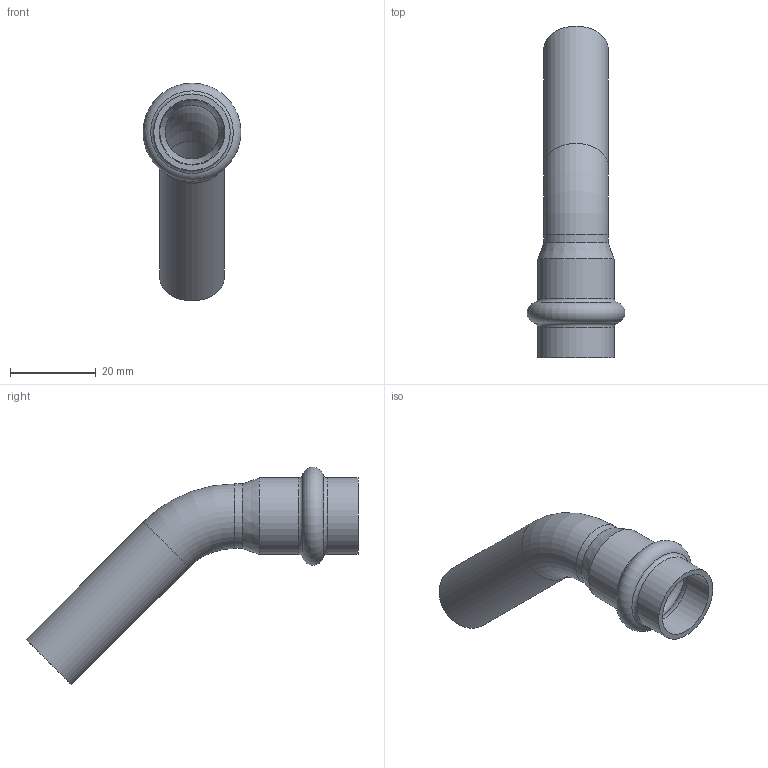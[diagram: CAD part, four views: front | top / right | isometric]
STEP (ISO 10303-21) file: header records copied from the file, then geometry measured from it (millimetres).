
FILE_DESCRIPTION(('STEP AP203'), '1');
FILE_NAME('覆.302661.009.000 捘 - VTi.958.I.001515', '', ('UNSPECIFIED'), ('UNSPECIFIED'), 'C3D Converter', 'C3D Toolkit', '');
FILE_SCHEMA(('CONFIG_CONTROL_DESIGN'));
Length unit declared in the file: millimetre
Products named in the file (1): ВР.302661.009.000 СБ
Bounding box: 22.8 x 77.24 x 50.64 mm (x, y, z)
Volume: 5385.4 mm3; surface area: 8712.1 mm2
Topology: 1 solids, 1 shells, 21 faces, 44 edges, 25 vertices
Faces by surface type: torus 9, cylinder 8, plane 2, cone 2
Full cylindrical faces by diameter (mm): 12.5 x2, 15 x2, 15.3 x2, 17.8 x2
Entity records: 508 total; most frequent: DIRECTION 94, CARTESIAN_POINT 72, ORIENTED_EDGE 50, AXIS2_PLACEMENT_3D 47, EDGE_LOOP 42, FACE_OUTER_BOUND 30, EDGE_CURVE 25, VERTEX_POINT 25
